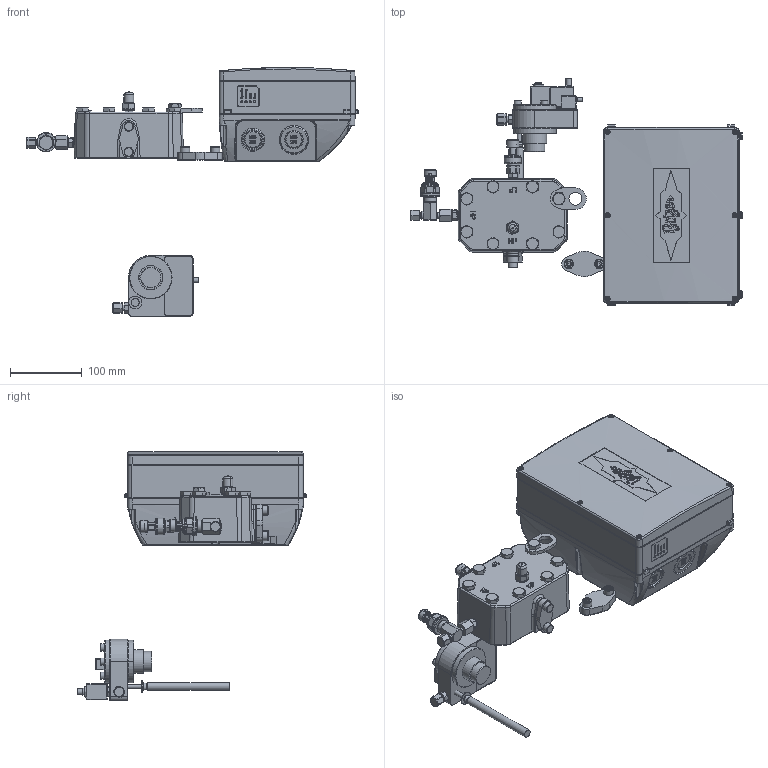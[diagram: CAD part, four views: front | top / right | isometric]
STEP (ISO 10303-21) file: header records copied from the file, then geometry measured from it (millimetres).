
FILE_DESCRIPTION(/* description */ (''),/* implementation_level */ '2;1');
FILE_NAME(/* name */ '2NSL-2HSL-OPTION_Arrangement 1.stp',/* time_stamp */ '2025-06-06T09:34:18+02:00',/* author */ (''),/* organization */ (''),/* preprocessor_version */ 'ST-DEVELOPER v20',/* originating_system */ 'SIEMENS PLM Software NX2406.8100',/* authorisation */ '');
FILE_SCHEMA (('AUTOMOTIVE_DESIGN { 1 0 10303 214 3 1 1 1 }'));
Products named in the file (11): PRESSURE-TRANSMITTER-43-LP; PT1000; DISCHARGE-SENSOR-HP; CYLINDER-HEAD-HIGH-D30-D46; CRANKCASE-HEATER-200-260V-120W; TERMINAL-BOX-CE3-CM-RC-02; BLIND-FLANGE-HD35-CM; BLIND-FLANGE-HD42; OIL-LEVEL-MONITORING-OLM-IQ-2; APPLICATION-ENVENLOPE-MONITORI; 2NSL-2HSL-OPTION
Assembly tree (10 placements, depth 3):
  2NSL-2HSL-OPTION
    OIL-LEVEL-MONITORING-OLM-IQ-2
    BLIND-FLANGE-HD42
    BLIND-FLANGE-HD35-CM
    TERMINAL-BOX-CE3-CM-RC-02
    CRANKCASE-HEATER-200-260V-120W
    CYLINDER-HEAD-HIGH-D30-D46
    APPLICATION-ENVENLOPE-MONITORI
      DISCHARGE-SENSOR-HP
      PT1000
      PRESSURE-TRANSMITTER-43-LP
Bounding box: 461.33 x 317.25 x 345.92 mm (x, y, z)
Volume: 6664057.2 mm3; surface area: 333563.2 mm2
Topology: 9 solids, 12 shells, 2653 faces, 6829 edges, 4368 vertices
Faces by surface type: plane 1216, cylinder 456, bspline 420, cone 259, torus 169, extrusion 91, sphere 42
Full cylindrical faces by diameter (mm): 0.75 x3, 3 x4, 4 x8, 5 x2, 6 x4, 7.188 x2, 8 x3, 8.08 x1, 8.2 x1, 9 x4, 9.8 x1, 10 x3, 10.287 x1, 10.29 x3, 10.907 x1, 11 x10, 13 x4, 14 x1, 14.63 x8, 15.5 x1, 15.6 x1, 16 x1, 16.9 x1, 16.95 x1, 17 x3, 17.5 x2, 18 x2, 19 x1, 22.5 x1, 23.5 x1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
Entity records: 99922 total; most frequent: CARTESIAN_POINT 37048, ORIENTED_EDGE 12872, DIRECTION 10428, EDGE_CURVE 6436, VERTEX_POINT 4275, AXIS2_PLACEMENT_3D 3764, EDGE_LOOP 3137, VECTOR 2900
